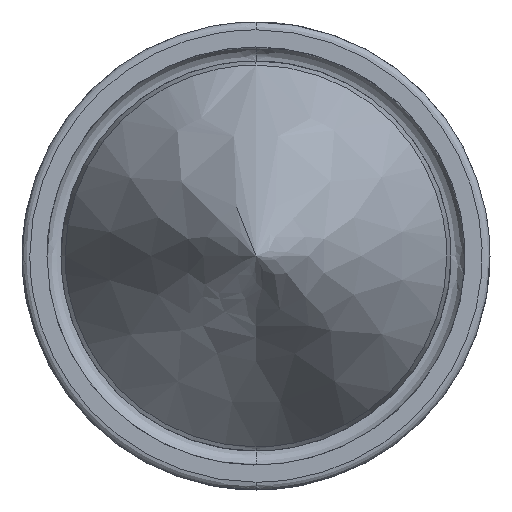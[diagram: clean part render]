
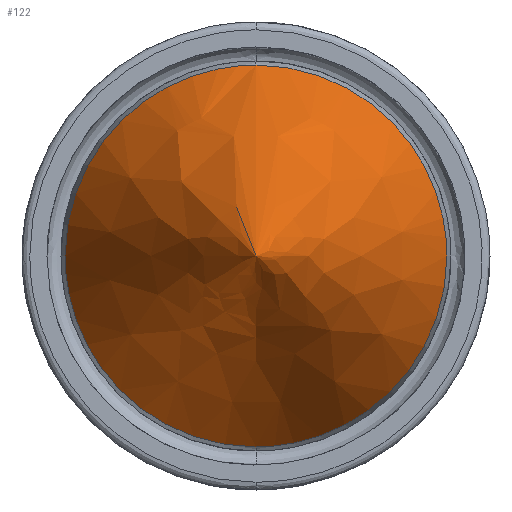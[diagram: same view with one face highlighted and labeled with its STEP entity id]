
A CAD part, front view. The second image highlights one B-rep face of the part: STEP entity #122.
In plain terms, the highlighted free-form (B-spline) face has degree [2, 1] with [9, 2] control points.
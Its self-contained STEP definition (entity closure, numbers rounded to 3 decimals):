
#122=ADVANCED_FACE('',(#213),#1880,.T.);
#213=FACE_OUTER_BOUND('',#330,.T.);
#330=EDGE_LOOP('',(#877,#878,#879,#880,#881,#882));
#877=ORIENTED_EDGE('',*,*,#1247,.F.);
#878=ORIENTED_EDGE('',*,*,#1253,.F.);
#879=ORIENTED_EDGE('',*,*,#1253,.T.);
#880=ORIENTED_EDGE('',*,*,#1246,.F.);
#881=ORIENTED_EDGE('',*,*,#1245,.F.);
#882=ORIENTED_EDGE('',*,*,#1248,.F.);
#1245=EDGE_CURVE('',#1819,#1820,#1568,.T.);
#1246=EDGE_CURVE('',#1820,#1821,#1569,.T.);
#1247=EDGE_CURVE('',#1821,#1822,#1570,.T.);
#1248=EDGE_CURVE('',#1822,#1819,#1571,.T.);
#1253=EDGE_CURVE('',#1825,#1821,#1432,.T.);
#1432=B_SPLINE_CURVE_WITH_KNOTS('',1,(#5890,#5891),.UNSPECIFIED.,.F.,.F.,
(2,2),(0.,54.721),.UNSPECIFIED.);
#1568=(
BOUNDED_CURVE()
B_SPLINE_CURVE(2,(#5866,#5867,#5868),.UNSPECIFIED.,.F.,.F.)
B_SPLINE_CURVE_WITH_KNOTS((3,3),(0.,38.441),.UNSPECIFIED.)
CURVE()
GEOMETRIC_REPRESENTATION_ITEM()
RATIONAL_B_SPLINE_CURVE((1.,0.707,1.))
REPRESENTATION_ITEM('')
);
#1569=(
BOUNDED_CURVE()
B_SPLINE_CURVE(2,(#5869,#5870,#5871),.UNSPECIFIED.,.F.,.F.)
B_SPLINE_CURVE_WITH_KNOTS((3,3),(0.,38.441),.UNSPECIFIED.)
CURVE()
GEOMETRIC_REPRESENTATION_ITEM()
RATIONAL_B_SPLINE_CURVE((1.,0.707,1.))
REPRESENTATION_ITEM('')
);
#1570=(
BOUNDED_CURVE()
B_SPLINE_CURVE(2,(#5872,#5873,#5874),.UNSPECIFIED.,.F.,.F.)
B_SPLINE_CURVE_WITH_KNOTS((3,3),(38.441,76.881),
 .UNSPECIFIED.)
CURVE()
GEOMETRIC_REPRESENTATION_ITEM()
RATIONAL_B_SPLINE_CURVE((1.,0.707,1.))
REPRESENTATION_ITEM('')
);
#1571=(
BOUNDED_CURVE()
B_SPLINE_CURVE(2,(#5875,#5876,#5877),.UNSPECIFIED.,.F.,.F.)
B_SPLINE_CURVE_WITH_KNOTS((3,3),(0.,38.441),.UNSPECIFIED.)
CURVE()
GEOMETRIC_REPRESENTATION_ITEM()
RATIONAL_B_SPLINE_CURVE((1.,0.707,1.))
REPRESENTATION_ITEM('')
);
#1819=VERTEX_POINT('',#5817);
#1820=VERTEX_POINT('',#5818);
#1821=VERTEX_POINT('',#5819);
#1822=VERTEX_POINT('',#5820);
#1825=VERTEX_POINT('',#5823);
#1880=(
BOUNDED_SURFACE()
B_SPLINE_SURFACE(2,1,((#4964,#4965),(#4966,#4967),(#4968,#4969),(#4970,
#4971),(#4972,#4973),(#4974,#4975),(#4976,#4977),(#4978,#4979),(#4980,#4981)),
 .UNSPECIFIED.,.T.,.F.,.F.)
B_SPLINE_SURFACE_WITH_KNOTS((3,2,2,2,3),(2,2),(0.,42.379,84.758,
127.137,169.516),(0.,60.328),.UNSPECIFIED.)
GEOMETRIC_REPRESENTATION_ITEM()
RATIONAL_B_SPLINE_SURFACE(((1.,1.),(0.707,0.707),
(1.,1.),(0.707,0.707),(1.,1.),(0.707,
0.707),(1.,1.),(0.707,0.707),(1.,1.)))
REPRESENTATION_ITEM('')
SURFACE()
);
#4964=CARTESIAN_POINT('',(0.,-50.,0.));
#4965=CARTESIAN_POINT('',(0.,3.959,26.979));
#4966=CARTESIAN_POINT('',(0.,-50.,0.));
#4967=CARTESIAN_POINT('',(26.979,3.959,26.979));
#4968=CARTESIAN_POINT('',(0.,-50.,0.));
#4969=CARTESIAN_POINT('',(26.979,3.959,0.));
#4970=CARTESIAN_POINT('',(0.,-50.,0.));
#4971=CARTESIAN_POINT('',(26.979,3.959,-26.979));
#4972=CARTESIAN_POINT('',(0.,-50.,0.));
#4973=CARTESIAN_POINT('',(0.,3.959,-26.979));
#4974=CARTESIAN_POINT('',(0.,-50.,0.));
#4975=CARTESIAN_POINT('',(-26.979,3.959,-26.979));
#4976=CARTESIAN_POINT('',(0.,-50.,0.));
#4977=CARTESIAN_POINT('',(-26.979,3.959,0.));
#4978=CARTESIAN_POINT('',(0.,-50.,0.));
#4979=CARTESIAN_POINT('',(-26.979,3.959,26.979));
#4980=CARTESIAN_POINT('',(0.,-50.,0.));
#4981=CARTESIAN_POINT('',(0.,3.959,26.979));
#5817=CARTESIAN_POINT('',(0.,-1.056,-24.472));
#5818=CARTESIAN_POINT('',(-24.472,-1.056,0.));
#5819=CARTESIAN_POINT('',(0.,-1.056,24.472));
#5820=CARTESIAN_POINT('',(24.472,-1.056,0.));
#5823=CARTESIAN_POINT('',(0.,-50.,0.));
#5866=CARTESIAN_POINT('',(0.,-1.056,-24.472));
#5867=CARTESIAN_POINT('',(-24.472,-1.056,-24.472));
#5868=CARTESIAN_POINT('',(-24.472,-1.056,0.));
#5869=CARTESIAN_POINT('',(-24.472,-1.056,0.));
#5870=CARTESIAN_POINT('',(-24.472,-1.056,24.472));
#5871=CARTESIAN_POINT('',(0.,-1.056,24.472));
#5872=CARTESIAN_POINT('',(0.,-1.056,24.472));
#5873=CARTESIAN_POINT('',(24.472,-1.056,24.472));
#5874=CARTESIAN_POINT('',(24.472,-1.056,0.));
#5875=CARTESIAN_POINT('',(24.472,-1.056,0.));
#5876=CARTESIAN_POINT('',(24.472,-1.056,-24.472));
#5877=CARTESIAN_POINT('',(0.,-1.056,-24.472));
#5890=CARTESIAN_POINT('',(0.,-50.,0.));
#5891=CARTESIAN_POINT('',(0.,-1.056,24.472));
